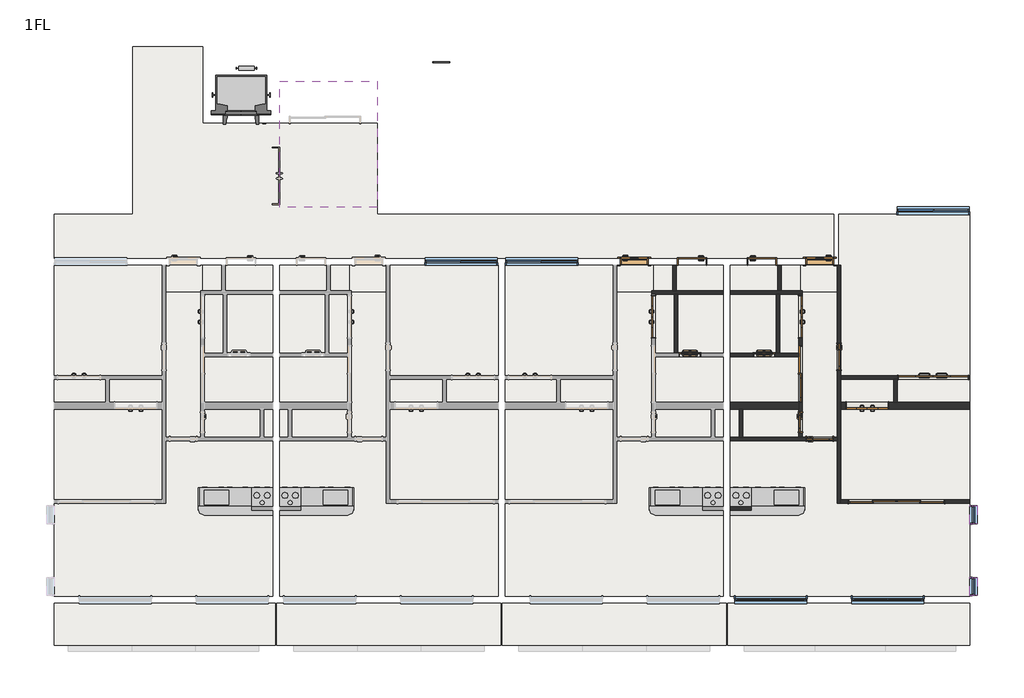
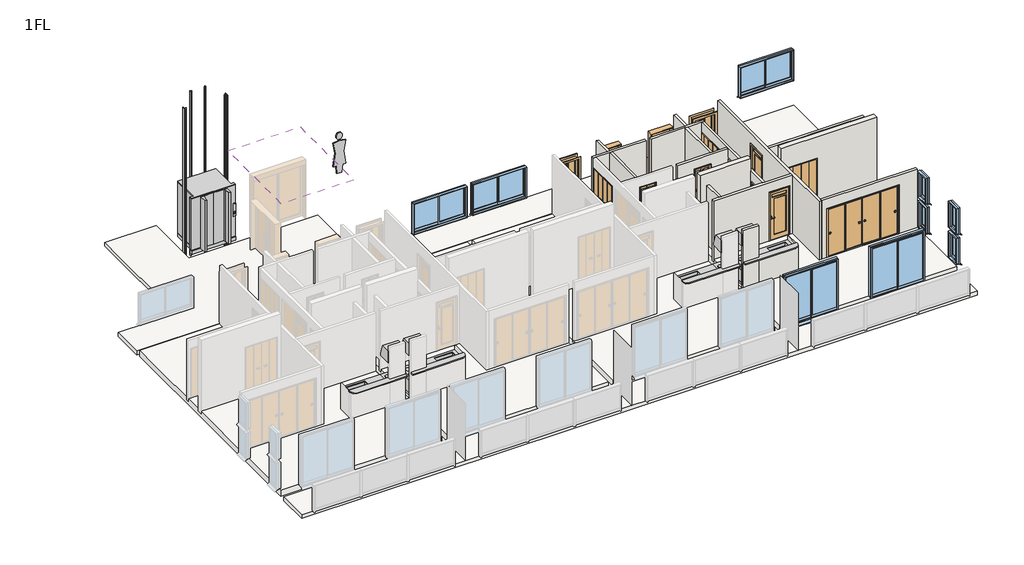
# One storey, part 3 of 3: 19 walls, 15 doors, 14 slabs, 9 windows, 4 flow terminals, 4 furniture elements, 2 proxies, 1 roof.
"""IFC4 building model written with IfcOpenShell, lengths in millimetres."""

from ifc_helpers import new_model, si_unit, frame, origin, place, context, project, spatial, polyline, outline, extrude, faceted_brep, transform, mapped, element, save
from components import entourage_8370d26b, mechanical_equipment_3dd84d69, door_800x2000_a7d1584b, door_800x2000_010bfebf, w1200h2000_6a144d60, w1200h2000_99d19fb3, w1200h2000_ebe1d490, w1600h2000_ca690e72, w2000h2000_5dbb6d6a, w2800h2000_04aa64cd, w600h2000_6a266bef, w600h2000_94bb9c3c, w600h2000_8ea70a65, w800h2000_1d97c4d4, w800h2000_13e9f519, w800h2000_ccb03061, w800h2000_0ab7d42c, flow_terminal_5276808d, flow_terminal_b13850ba, furniture_3a0496f9, furniture_dadabe7c, window_2000x1200_fc91d1cf, window_2000x2000_f1ff98da, window_450x1000_1cddc73c

model = new_model("IFC4")

# Units and contexts
model_context = context("Model", 3, world=origin())
ifc_project = project(units=[si_unit("LENGTHUNIT", "METRE", prefix="MILLI")], contexts=[model_context])

# Site, building, storey
site = spatial("IfcSite", under=ifc_project)
building = spatial("IfcBuilding", under=site)
storey = spatial("IfcBuildingStorey", under=building, Name="1FL", Elevation=1000.0)

# Proxies
placement = place(None, origin())
entourage_shape = entourage_8370d26b(model_context)
element("IfcBuildingElementProxy", 1, Name="M_RPC 女性 : Cynthia", ObjectType="M_RPC 女性 : Cynthia", at=placement, inside=storey, context=model_context, shape_type="MappedRepresentation", body=[
    mapped(entourage_shape, transform((0.0, 0.0, 1000.0), x_axis=(1.0, 0.0, 0.0), y_axis=(0.0, 1.0, 0.0), z_axis=(0.0, 0.0, 1.0))),
])
mechanical_equipment_shape = mechanical_equipment_3dd84d69(model_context)
element("IfcBuildingElementProxy", 2, Name="エレベーター一般1 : 6人乗", ObjectType="エレベーター一般1 : 6人乗", at=placement, inside=storey, context=model_context, shape_type="MappedRepresentation", body=[
    mapped(mechanical_equipment_shape, transform((-5728.7187246, -1650.1171638, 1000.0), x_axis=(1.0, 0.0, 0.0), y_axis=(0.0, 1.0, 0.0), z_axis=(0.0, 0.0, 1.0))),
])

# Doors
door_800x2000_shape = door_800x2000_a7d1584b(model_context)
element("IfcDoor", 3, ObjectType="片開き3 : 800x2000", at=placement, inside=storey, context=model_context, shape_type="MappedRepresentation", body=[
    mapped(door_800x2000_shape, transform((5521.2812754, -5700.1171638, 1000.0), x_axis=(1.0, 0.0, 0.0), y_axis=(0.0, 1.0, 0.0), z_axis=(0.0, 0.0, 1.0))),
])
door_800x2000_2_shape = door_800x2000_010bfebf(model_context)
element("IfcDoor", 4, ObjectType="片開き3 : 800x2000", at=placement, inside=storey, context=model_context, shape_type="MappedRepresentation", body=[
    mapped(door_800x2000_2_shape, transform((10821.2812754, -5700.1171638, 1000.0), x_axis=(-1.0, 0.0, 0.0), y_axis=(0.0, -1.0, 0.0), z_axis=(0.0, 0.0, 1.0))),
])
w1200h2000_shape = w1200h2000_6a144d60(model_context)
element("IfcDoor", 5, ObjectType="木製折戸 : w1200h2000", at=placement, inside=storey, context=model_context, shape_type="MappedRepresentation", body=[
    mapped(w1200h2000_shape, transform((6071.2812754, -7280.1171638, 1100.0), x_axis=(0.0, 1.0, 0.0), y_axis=(-1.0, 0.0, 0.0), z_axis=(0.0, 0.0, 1.0))),
])
w1200h2000_2_shape = w1200h2000_99d19fb3(model_context)
element("IfcDoor", 6, ObjectType="木製折戸 : w1200h2000", at=placement, inside=storey, context=model_context, shape_type="MappedRepresentation", body=[
    mapped(w1200h2000_2_shape, transform((10271.2812754, -7280.1171638, 1100.0), x_axis=(0.0, 1.0, 0.0), y_axis=(-1.0, 0.0, 0.0), z_axis=(0.0, 0.0, 1.0))),
])
w1200h2000_3_shape = w1200h2000_ebe1d490(model_context)
element("IfcDoor", 7, ObjectType="木製折戸 : w1200h2000", at=placement, inside=storey, context=model_context, shape_type="MappedRepresentation", body=[
    mapped(w1200h2000_3_shape, transform((12183.7812754, -9820.1171638, 1100.0), x_axis=(1.0, 0.0, 0.0), y_axis=(0.0, 1.0, 0.0), z_axis=(0.0, 0.0, 1.0))),
])
w1600h2000_shape = w1600h2000_ca690e72(model_context)
element("IfcDoor", 8, ObjectType="片引戸CL2017 : w1600h2000", at=placement, inside=storey, context=model_context, shape_type="MappedRepresentation", body=[
    mapped(w1600h2000_shape, transform((10271.2812754, -8920.1171638, 1100.0), x_axis=(0.0, -1.0, 0.0), y_axis=(1.0, 0.0, 0.0), z_axis=(0.0, 0.0, 1.0))),
])
w2000h2000_shape = w2000h2000_5dbb6d6a(model_context)
element("IfcDoor", 9, ObjectType="木製折戸 : w2000h2000", at=placement, inside=storey, context=model_context, shape_type="MappedRepresentation", body=[
    mapped(w2000h2000_shape, transform((14066.2812754, -9020.1171638, 1100.0), x_axis=(-1.0, 0.0, 0.0), y_axis=(0.0, -1.0, 0.0), z_axis=(0.0, 0.0, 1.0))),
])
w2800h2000_shape = w2800h2000_04aa64cd(model_context)
element("IfcDoor", 10, ObjectType="引違い 4 枚 2 溝_襖 : w2800h2000", at=placement, inside=storey, context=model_context, shape_type="MappedRepresentation", body=[
    mapped(w2800h2000_shape, transform((13026.8167793, -12570.1171638, 1100.0), x_axis=(1.0, 0.0, 0.0), y_axis=(0.0, 1.0, 0.0), z_axis=(0.0, 0.0, 1.0))),
])
w600h2000_shape = w600h2000_6a266bef(model_context)
element("IfcDoor", 11, ObjectType="浴室折戸 : w600h2000", at=placement, inside=storey, context=model_context, shape_type="MappedRepresentation", body=[
    mapped(w600h2000_shape, transform((7111.2812754, -8370.1171638, 1100.0), x_axis=(1.0, 0.0, 0.0), y_axis=(0.0, 1.0, 0.0), z_axis=(0.0, 0.0, 1.0))),
])
w600h2000_2_shape = w600h2000_94bb9c3c(model_context)
element("IfcDoor", 12, ObjectType="浴室折戸 : w600h2000", at=placement, inside=storey, context=model_context, shape_type="MappedRepresentation", body=[
    mapped(w600h2000_2_shape, transform((9231.2812754, -8370.1171638, 1100.0), x_axis=(-1.0, 0.0, 0.0), y_axis=(0.0, -1.0, 0.0), z_axis=(0.0, 0.0, 1.0))),
])
w600h2000_3_shape = w600h2000_8ea70a65(model_context)
element("IfcDoor", 13, ObjectType="片開戸CL2058 : w600h2000", at=placement, inside=storey, context=model_context, shape_type="MappedRepresentation", body=[
    mapped(w600h2000_3_shape, transform((10271.2812754, -10295.1171638, 1100.0), x_axis=(0.0, -1.0, 0.0), y_axis=(1.0, 0.0, 0.0), z_axis=(0.0, 0.0, 1.0))),
])
w800h2000_shape = w800h2000_1d97c4d4(model_context)
element("IfcDoor", 14, ObjectType="片開 : w800h2000", at=placement, inside=storey, context=model_context, shape_type="MappedRepresentation", body=[
    mapped(w800h2000_shape, transform((7171.2812754, -5700.1171638, 1000.0), x_axis=(-1.0, 0.0, 0.0), y_axis=(0.0, -1.0, 0.0), z_axis=(0.0, 0.0, 1.0))),
])
w800h2000_2_shape = w800h2000_13e9f519(model_context)
element("IfcDoor", 15, ObjectType="片開戸CL2058 : w800h2000", at=placement, inside=storey, context=model_context, shape_type="MappedRepresentation", body=[
    mapped(w800h2000_2_shape, transform((10821.2812754, -10770.1171638, 1100.0), x_axis=(1.0, 0.0, 0.0), y_axis=(0.0, 1.0, 0.0), z_axis=(0.0, 0.0, 1.0))),
])
w800h2000_3_shape = w800h2000_ccb03061(model_context)
element("IfcDoor", 16, ObjectType="片開戸CL2058 : w800h2000", at=placement, inside=storey, context=model_context, shape_type="MappedRepresentation", body=[
    mapped(w800h2000_3_shape, transform((11371.2812754, -8420.1171638, 1100.0), x_axis=(0.0, -1.0, 0.0), y_axis=(1.0, 0.0, 0.0), z_axis=(0.0, 0.0, 1.0))),
])
w800h2000_4_shape = w800h2000_0ab7d42c(model_context)
element("IfcDoor", 17, ObjectType="片開 : w800h2000", at=placement, inside=storey, context=model_context, shape_type="MappedRepresentation", body=[
    mapped(w800h2000_4_shape, transform((9171.2812754, -5700.1171638, 1000.0), x_axis=(1.0, 0.0, 0.0), y_axis=(0.0, 1.0, 0.0), z_axis=(0.0, 0.0, 1.0))),
])

# Flow terminals
flow_terminal_shape = flow_terminal_5276808d(model_context)
element("IfcFlowTerminal", 18, ObjectType="システムキッチンIH : システムキッチンIH", at=placement, inside=storey, context=model_context, shape_type="MappedRepresentation", body=[
    mapped(flow_terminal_shape, transform((-4828.7187246, -12720.1171638, 1200.0), x_axis=(1.0000000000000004, 0.0, 0.0), y_axis=(0.0, 1.0000000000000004, 0.0), z_axis=(0.0, 0.0, 1.0))),
])
element("IfcFlowTerminal", 19, ObjectType="システムキッチンIH : システムキッチンIH", at=placement, inside=storey, context=model_context, shape_type="MappedRepresentation", body=[
    mapped(flow_terminal_shape, transform((8071.2812754, -12720.1171638, 1200.0), x_axis=(1.0, 0.0, 0.0), y_axis=(0.0, 1.0, 0.0), z_axis=(0.0, 0.0, 1.0))),
])
flow_terminal_2_shape = flow_terminal_b13850ba(model_context)
element("IfcFlowTerminal", 20, ObjectType="システムキッチンIH : システムキッチンIH", at=placement, inside=storey, context=model_context, shape_type="MappedRepresentation", body=[
    mapped(flow_terminal_2_shape, transform((-4628.7187246, -12720.1171638, 1200.0), x_axis=(-1.0, 0.0, 0.0), y_axis=(0.0, -1.0, 0.0), z_axis=(0.0, 0.0, 1.0))),
])
element("IfcFlowTerminal", 21, ObjectType="システムキッチンIH : システムキッチンIH", at=placement, inside=storey, context=model_context, shape_type="MappedRepresentation", body=[
    mapped(flow_terminal_2_shape, transform((8271.2812754, -12720.1171638, 1200.0), x_axis=(-1.0, 0.0, 0.0), y_axis=(0.0, -1.0, 0.0), z_axis=(0.0, 0.0, 1.0))),
])

# Furniture
furniture_shape = furniture_3a0496f9(model_context)
element("IfcFurniture", 22, ObjectType="キッチンカウンター : キッチンカウンター", at=placement, inside=storey, context=model_context, shape_type="MappedRepresentation", body=[
    mapped(furniture_shape, transform((-4628.7187246, -12820.1171638, 1100.0), x_axis=(-1.0, 0.0, 0.0), y_axis=(0.0, -1.0, 0.0), z_axis=(0.0, 0.0, 1.0))),
])
element("IfcFurniture", 23, ObjectType="キッチンカウンター : キッチンカウンター", at=placement, inside=storey, context=model_context, shape_type="MappedRepresentation", body=[
    mapped(furniture_shape, transform((8271.2812754, -12820.1171638, 1100.0), x_axis=(-1.0, 0.0, 0.0), y_axis=(0.0, -1.0, 0.0), z_axis=(0.0, 0.0, 1.0))),
])
furniture_2_shape = furniture_dadabe7c(model_context)
element("IfcFurniture", 24, ObjectType="キッチンカウンター : キッチンカウンター", at=placement, inside=storey, context=model_context, shape_type="MappedRepresentation", body=[
    mapped(furniture_2_shape, transform((-4828.7187246, -12820.1171638, 1100.0), x_axis=(1.0, 0.0, 0.0), y_axis=(0.0, 1.0, 0.0), z_axis=(0.0, 0.0, 1.0))),
])
element("IfcFurniture", 25, ObjectType="キッチンカウンター : キッチンカウンター", at=placement, inside=storey, context=model_context, shape_type="MappedRepresentation", body=[
    mapped(furniture_2_shape, transform((8071.2812754, -12820.1171638, 1100.0), x_axis=(1.0, 0.0, 0.0), y_axis=(0.0, 1.0, 0.0), z_axis=(0.0, 0.0, 1.0))),
])

# Roof
element("IfcRoof", 26, ObjectType="RC150", at=placement, inside=storey, context=model_context, shape_type="SweptSolid", body=[
    extrude(outline(polyline([(-1828.7187246, -4150.1171638), (-4628.7187246, -4150.1171638), (-4628.7187246, -550.1171638), (-1828.7187246, -550.1171638), (-1828.7187246, -4150.1171638)])), frame((0.0, 0.0, 3850.0), z_axis=(0.0, 0.0, 1.0), x_axis=(1.0, 0.0, 0.0)), (0.0, 0.0, 1.0), 150.0),
])

# Slabs
element("IfcSlab", 27, ObjectType="RC150＋100", at=placement, inside=storey, context=model_context, shape_type="SweptSolid", body=[
    extrude(outline(polyline([(-4828.7187246, -15270.1171638), (-11078.7187246, -15270.1171638), (-11078.7187246, -5800.1171638), (-7928.7187246, -5800.1171638), (-7928.7187246, -6580.1171638), (-6828.7187246, -6580.1171638), (-6828.7187246, -5800.1171638), (-4828.7187246, -5800.1171638), (-4828.7187246, -6580.1171638), (-6188.7187246, -6580.1171638), (-6188.7187246, -8370.1171638), (-4828.7187246, -8370.1171638), (-4828.7187246, -15270.1171638)])), frame((0.0, 0.0, 850.0), z_axis=(0.0, 0.0, 1.0), x_axis=(1.0, 0.0, 0.0)), (0.0, 0.0, 1.0), 250.0),
])
element("IfcSlab", 28, ObjectType="RC150＋100", at=placement, inside=storey, context=model_context, shape_type="SweptSolid", body=[
    extrude(outline(polyline([(-4628.7187246, -15270.1171638), (-4628.7187246, -8370.1171638), (-3268.7187246, -8370.1171638), (-3268.7187246, -6580.1171638), (-4628.7187246, -6580.1171638), (-4628.7187246, -5800.1171638), (-2628.7187246, -5800.1171638), (-2628.7187246, -6580.1171638), (-1528.7187246, -6580.1171638), (-1528.7187246, -5800.1171638), (1621.2812754, -5800.1171638), (1621.2812754, -15270.1171638), (-4628.7187246, -15270.1171638)])), frame((0.0, 0.0, 850.0), z_axis=(0.0, 0.0, 1.0), x_axis=(1.0, 0.0, 0.0)), (0.0, 0.0, 1.0), 250.0),
])
element("IfcSlab", 29, ObjectType="RC150＋100", at=placement, inside=storey, context=model_context, shape_type="SweptSolid", body=[
    extrude(outline(polyline([(8071.2812754, -15270.1171638), (1821.2812754, -15270.1171638), (1821.2812754, -5800.1171638), (4971.2812754, -5800.1171638), (4971.2812754, -6580.1171638), (6071.2812754, -6580.1171638), (6071.2812754, -5800.1171638), (8071.2812754, -5800.1171638), (8071.2812754, -6580.1171638), (6711.2812754, -6580.1171638), (6711.2812754, -8370.1171638), (8071.2812754, -8370.1171638), (8071.2812754, -15270.1171638)])), frame((0.0, 0.0, 850.0), z_axis=(0.0, 0.0, 1.0), x_axis=(1.0, 0.0, 0.0)), (0.0, 0.0, 1.0), 250.0),
])
element("IfcSlab", 30, ObjectType="RC150＋100", at=placement, inside=storey, context=model_context, shape_type="SweptSolid", body=[
    extrude(outline(polyline([(8271.2812754, -15270.1171638), (8271.2812754, -8370.1171638), (9631.2812754, -8370.1171638), (9631.2812754, -6580.1171638), (8271.2812754, -6580.1171638), (8271.2812754, -5800.1171638), (10271.2812754, -5800.1171638), (10271.2812754, -6580.1171638), (11371.2812754, -6580.1171638), (11371.2812754, -4350.1171638), (15121.2812754, -4350.1171638), (15121.2812754, -15270.1171638), (8271.2812754, -15270.1171638)])), frame((0.0, 0.0, 850.0), z_axis=(0.0, 0.0, 1.0), x_axis=(1.0, 0.0, 0.0)), (0.0, 0.0, 1.0), 250.0),
])
element("IfcSlab", 31, ObjectType="RC150", at=placement, inside=storey, context=model_context, shape_type="SweptSolid", body=[
    extrude(outline(polyline([(-4828.7187246, -8370.1171638), (-6188.7187246, -8370.1171638), (-6188.7187246, -6580.1171638), (-4828.7187246, -6580.1171638), (-4828.7187246, -8370.1171638)])), frame((0.0, 0.0, 850.0), z_axis=(0.0, 0.0, 1.0), x_axis=(1.0, 0.0, 0.0)), (0.0, 0.0, 1.0), 150.0),
])
element("IfcSlab", 32, ObjectType="RC150", at=placement, inside=storey, context=model_context, shape_type="SweptSolid", body=[
    extrude(outline(polyline([(-6828.7187246, -6580.1171638), (-7928.7187246, -6580.1171638), (-7928.7187246, -5800.1171638), (-6828.7187246, -5800.1171638), (-6828.7187246, -6580.1171638)])), frame((0.0, 0.0, 800.0), z_axis=(0.0, 0.0, 1.0), x_axis=(1.0, 0.0, 0.0)), (0.0, 0.0, 1.0), 150.0),
])
element("IfcSlab", 33, ObjectType="RC150", at=placement, inside=storey, context=model_context, shape_type="SweptSolid", body=[
    extrude(outline(polyline([(-4628.7187246, -8370.1171638), (-4628.7187246, -6580.1171638), (-3268.7187246, -6580.1171638), (-3268.7187246, -8370.1171638), (-4628.7187246, -8370.1171638)])), frame((0.0, 0.0, 850.0), z_axis=(0.0, 0.0, 1.0), x_axis=(1.0, 0.0, 0.0)), (0.0, 0.0, 1.0), 150.0),
])
element("IfcSlab", 34, ObjectType="RC150", at=placement, inside=storey, context=model_context, shape_type="SweptSolid", body=[
    extrude(outline(polyline([(-2628.7187246, -6580.1171638), (-2628.7187246, -5800.1171638), (-1528.7187246, -5800.1171638), (-1528.7187246, -6580.1171638), (-2628.7187246, -6580.1171638)])), frame((0.0, 0.0, 800.0), z_axis=(0.0, 0.0, 1.0), x_axis=(1.0, 0.0, 0.0)), (0.0, 0.0, 1.0), 150.0),
])
element("IfcSlab", 35, ObjectType="RC150", at=placement, inside=storey, context=model_context, shape_type="SweptSolid", body=[
    extrude(outline(polyline([(8071.2812754, -8370.1171638), (6711.2812754, -8370.1171638), (6711.2812754, -6580.1171638), (8071.2812754, -6580.1171638), (8071.2812754, -8370.1171638)])), frame((0.0, 0.0, 850.0), z_axis=(0.0, 0.0, 1.0), x_axis=(1.0, 0.0, 0.0)), (0.0, 0.0, 1.0), 150.0),
])
element("IfcSlab", 36, ObjectType="RC150", at=placement, inside=storey, context=model_context, shape_type="SweptSolid", body=[
    extrude(outline(polyline([(6071.2812754, -6580.1171638), (4971.2812754, -6580.1171638), (4971.2812754, -5800.1171638), (6071.2812754, -5800.1171638), (6071.2812754, -6580.1171638)])), frame((0.0, 0.0, 800.0), z_axis=(0.0, 0.0, 1.0), x_axis=(1.0, 0.0, 0.0)), (0.0, 0.0, 1.0), 150.0),
])
element("IfcSlab", 37, ObjectType="RC150", at=placement, inside=storey, context=model_context, shape_type="SweptSolid", body=[
    extrude(outline(polyline([(8271.2812754, -8370.1171638), (8271.2812754, -6580.1171638), (9631.2812754, -6580.1171638), (9631.2812754, -8370.1171638), (8271.2812754, -8370.1171638)])), frame((0.0, 0.0, 850.0), z_axis=(0.0, 0.0, 1.0), x_axis=(1.0, 0.0, 0.0)), (0.0, 0.0, 1.0), 150.0),
])
element("IfcSlab", 38, ObjectType="RC150", at=placement, inside=storey, context=model_context, shape_type="SweptSolid", body=[
    extrude(outline(polyline([(10271.2812754, -6580.1171638), (10271.2812754, -5800.1171638), (11371.2812754, -5800.1171638), (11371.2812754, -6580.1171638), (10271.2812754, -6580.1171638)])), frame((0.0, 0.0, 800.0), z_axis=(0.0, 0.0, 1.0), x_axis=(1.0, 0.0, 0.0)), (0.0, 0.0, 1.0), 150.0),
])
element("IfcSlab", 39, ObjectType="RC150", at=placement, inside=storey, context=model_context, shape_type="SweptSolid", body=[
    extrude(outline(polyline([(-8828.7187246, -4350.1171638), (-8828.7187246, 449.8828362), (-6828.7187246, 449.8828362), (-6828.7187246, -1750.1171638), (-1828.7187246, -1750.1171638), (-1828.7187246, -4350.1171638), (11221.2812754, -4350.1171638), (11221.2812754, -5600.1171638), (-11078.7187246, -5600.1171638), (-11078.7187246, -4350.1171638), (-8828.7187246, -4350.1171638)])), frame((0.0, 0.0, 800.0), z_axis=(0.0, 0.0, 1.0), x_axis=(1.0, 0.0, 0.0)), (0.0, 0.0, 1.0), 150.0),
])
element("IfcSlab", 40, ObjectType="RC150", at=placement, inside=storey, context=model_context, shape_type="SweptSolid", body=[
    extrude(outline(polyline([(15121.2812754, -15470.1171638), (15121.2812754, -16670.1171638), (-11078.7187246, -16670.1171638), (-11078.7187246, -15470.1171638), (15121.2812754, -15470.1171638)])), frame((0.0, 0.0, 800.0), z_axis=(0.0, 0.0, 1.0), x_axis=(1.0, 0.0, 0.0)), (0.0, 0.0, 1.0), 150.0),
])

# Walls
element("IfcWall", 41, ObjectType="(R)RC200", at=placement, inside=storey, context=model_context, shape_type="Brep", body=[
    faceted_brep([(15121.2812754, -9720.1171638, 1000.0), (13046.2812754, -9720.1171638, 1000.0), (12946.2812754, -9720.1171638, 1000.0), (11421.2812754, -9720.1171638, 1000.0), (11421.2812754, -9720.1171638, 4000.0), (15121.2812754, -9720.1171638, 4000.0), (12803.7812754, -9720.1171638, 3120.0), (11563.7812754, -9720.1171638, 3120.0), (11563.7812754, -9720.1171638, 1100.0), (12803.7812754, -9720.1171638, 1100.0), (15121.2812754, -9920.1171638, 1000.0), (15121.2812754, -9920.1171638, 4000.0), (11421.2812754, -9920.1171638, 4000.0), (11421.2812754, -9920.1171638, 1000.0), (12803.7812754, -9920.1171638, 3120.0), (12803.7812754, -9920.1171638, 1100.0), (11563.7812754, -9920.1171638, 1100.0), (11563.7812754, -9920.1171638, 3120.0)], [[[0, 1, 2, 3, 4, 5], [6, 7, 8, 9]], [[10, 11, 12, 13], [14, 15, 16, 17]], [[3, 2, 1, 0, 10, 13]], [[5, 4, 12, 11]], [[4, 3, 13, 12]], [[15, 14, 6, 9]], [[16, 15, 9, 8]], [[17, 16, 8, 7]], [[14, 17, 7, 6]], [[0, 5, 11, 10]]]),
])
element("IfcWall", 42, ObjectType="(R)RC200", at=placement, inside=storey, context=model_context, shape_type="Brep", body=[
    faceted_brep([(10221.2812754, -9720.1171638, 1000.0), (8271.2812754, -9720.1171638, 1000.0), (8271.2812754, -9720.1171638, 4000.0), (10221.2812754, -9720.1171638, 4000.0), (10221.2812754, -9920.1171638, 1000.0), (10221.2812754, -9920.1171638, 4000.0), (8271.2812754, -9920.1171638, 4000.0), (8271.2812754, -9920.1171638, 1000.0), (8521.2812754, -9920.1171638, 1000.0), (8621.2812754, -9920.1171638, 1000.0)], [[[0, 1, 2, 3]], [[4, 5, 6, 7, 8, 9]], [[1, 0, 4, 9, 8, 7]], [[3, 2, 6, 5]], [[0, 3, 5, 4]], [[2, 1, 7, 6]]]),
])
element("IfcWall", 43, ObjectType="(F)30", at=placement, inside=storey, context=model_context, shape_type="SweptSolid", body=[
    extrude(outline(polyline([(10363.6749911, -12720.1171638), (10363.6749911, -12165.1171638), (10393.6749911, -12165.1171638), (10393.6749911, -12720.1171638), (10363.6749911, -12720.1171638)])), frame((0.0, 0.0, 1100.0), z_axis=(0.0, 0.0, 1.0), x_axis=(1.0, 0.0, 0.0)), (0.0, 0.0, 1.0), 1060.0),
])
element("IfcWall", 44, ObjectType="(L1)LGS100", at=placement, inside=storey, context=model_context, shape_type="Brep", body=[
    faceted_brep([(6021.2812754, -6630.1171638, 1000.0), (6121.2812754, -6630.1171638, 1000.0), (6661.2812754, -6630.1171638, 1000.0), (6761.2812754, -6630.1171638, 1000.0), (8071.2812754, -6630.1171638, 1000.0), (8071.2812754, -6630.1171638, 3500.0), (6761.2812754, -6630.1171638, 3500.0), (6661.2812754, -6630.1171638, 3500.0), (6121.2812754, -6630.1171638, 3500.0), (6021.2812754, -6630.1171638, 3500.0), (6021.2812754, -6530.1171638, 1000.0), (6021.2812754, -6530.1171638, 3500.0), (6621.2812754, -6530.1171638, 3500.0), (6721.2812754, -6530.1171638, 3500.0), (8071.2812754, -6530.1171638, 3500.0), (8071.2812754, -6530.1171638, 1000.0), (6721.2812754, -6530.1171638, 1000.0), (6621.2812754, -6530.1171638, 1000.0)], [[[0, 1, 2, 3, 4, 5, 6, 7, 8, 9]], [[10, 11, 12, 13, 14, 15, 16, 17]], [[4, 3, 2, 1, 0, 10, 17, 16, 15]], [[9, 8, 7, 6, 5, 14, 13, 12, 11]], [[0, 9, 11, 10]], [[5, 4, 15, 14]]]),
])
element("IfcWall", 45, ObjectType="(L1)LGS100", at=placement, inside=storey, context=model_context, shape_type="SweptSolid", body=[
    extrude(outline(polyline([(6721.2812754, -5800.1171638), (6721.2812754, -6530.1171638), (6621.2812754, -6530.1171638), (6621.2812754, -5800.1171638), (6721.2812754, -5800.1171638)])), frame((0.0, 0.0, 1000.0), z_axis=(0.0, 0.0, 1.0), x_axis=(1.0, 0.0, 0.0)), (0.0, 0.0, 1.0), 2500.0),
])
element("IfcWall", 46, ObjectType="(L1)LGS100", at=placement, inside=storey, context=model_context, shape_type="SweptSolid", body=[
    extrude(outline(polyline([(6761.2812754, -6630.1171638), (6761.2812754, -8320.1171638), (6661.2812754, -8320.1171638), (6661.2812754, -6630.1171638), (6761.2812754, -6630.1171638)])), frame((0.0, 0.0, 1000.0), z_axis=(0.0, 0.0, 1.0), x_axis=(1.0, 0.0, 0.0)), (0.0, 0.0, 1.0), 2500.0),
])
element("IfcWall", 47, ObjectType="(L1)LGS100", at=placement, inside=storey, context=model_context, shape_type="Brep", body=[
    faceted_brep([(15121.2812754, -8970.1171638, 1000.0), (11421.2812754, -8970.1171638, 1000.0), (11421.2812754, -8970.1171638, 3500.0), (15121.2812754, -8970.1171638, 3500.0), (13046.2812754, -8970.1171638, 3120.0), (13046.2812754, -8970.1171638, 1100.0), (15086.2812754, -8970.1171638, 1100.0), (15086.2812754, -8970.1171638, 3120.0), (11421.2812754, -9070.1171638, 1000.0), (12946.2812754, -9070.1171638, 1000.0), (13046.2812754, -9070.1171638, 1000.0), (15121.2812754, -9070.1171638, 1000.0), (15121.2812754, -9070.1171638, 3500.0), (13046.2812754, -9070.1171638, 3500.0), (12946.2812754, -9070.1171638, 3500.0), (11421.2812754, -9070.1171638, 3500.0), (13046.2812754, -9070.1171638, 1100.0), (13046.2812754, -9070.1171638, 3120.0), (15086.2812754, -9070.1171638, 3120.0), (15086.2812754, -9070.1171638, 1100.0)], [[[0, 1, 2, 3], [4, 5, 6, 7]], [[8, 9, 10, 11, 12, 13, 14, 15], [16, 17, 18, 19]], [[1, 0, 11, 10, 9, 8]], [[3, 2, 15, 14, 13, 12]], [[2, 1, 8, 15]], [[4, 17, 16, 5]], [[5, 16, 19, 6]], [[17, 4, 7, 18]], [[18, 7, 6, 19]], [[0, 3, 12, 11]]]),
])
element("IfcWall", 48, ObjectType="(L1)LGS100", at=placement, inside=storey, context=model_context, shape_type="SweptSolid", body=[
    extrude(outline(polyline([(13046.2812754, -9070.1171638), (13046.2812754, -9720.1171638), (12946.2812754, -9720.1171638), (12946.2812754, -9070.1171638), (13046.2812754, -9070.1171638)])), frame((0.0, 0.0, 1000.0), z_axis=(0.0, 0.0, 1.0), x_axis=(1.0, 0.0, 0.0)), (0.0, 0.0, 1.0), 2500.0),
])
element("IfcWall", 49, ObjectType="(L1)LGS100", at=placement, inside=storey, context=model_context, shape_type="Brep", body=[
    faceted_brep([(11421.2812754, -12620.1171638, 1000.0), (11421.2812754, -12520.1171638, 1000.0), (11421.2812754, -9920.1171638, 1000.0), (11421.2812754, -9720.1171638, 1000.0), (11421.2812754, -9070.1171638, 1000.0), (11421.2812754, -8970.1171638, 1000.0), (11421.2812754, -5800.1171638, 1000.0), (11421.2812754, -5800.1171638, 3500.0), (11421.2812754, -8970.1171638, 3500.0), (11421.2812754, -9070.1171638, 3500.0), (11421.2812754, -12520.1171638, 3500.0), (11421.2812754, -12620.1171638, 3500.0), (11421.2812754, -8820.1171638, 1100.0), (11421.2812754, -8820.1171638, 3100.0), (11421.2812754, -8020.1171638, 3100.0), (11421.2812754, -8020.1171638, 1100.0), (11321.2812754, -12620.1171638, 1000.0), (11321.2812754, -12620.1171638, 3500.0), (11321.2812754, -10820.1171638, 3500.0), (11321.2812754, -10720.1171638, 3500.0), (11321.2812754, -5800.1171638, 3500.0), (11321.2812754, -5800.1171638, 1000.0), (11321.2812754, -10720.1171638, 1000.0), (11321.2812754, -10820.1171638, 1000.0), (11321.2812754, -8820.1171638, 1100.0), (11321.2812754, -8020.1171638, 1100.0), (11321.2812754, -8020.1171638, 3100.0), (11321.2812754, -8820.1171638, 3100.0)], [[[0, 1, 2, 3, 4, 5, 6, 7, 8, 9, 10, 11], [12, 13, 14, 15]], [[16, 17, 18, 19, 20, 21, 22, 23], [24, 25, 26, 27]], [[6, 5, 4, 3, 2, 1, 0, 16, 23, 22, 21]], [[11, 10, 9, 8, 7, 20, 19, 18, 17]], [[0, 11, 17, 16]], [[13, 12, 24, 27]], [[14, 13, 27, 26]], [[15, 14, 26, 25]], [[12, 15, 25, 24]], [[7, 6, 21, 20]]]),
])
element("IfcWall", 50, ObjectType="(L1)LGS100", at=placement, inside=storey, context=model_context, shape_type="Brep", body=[
    faceted_brep([(10221.2812754, -8320.1171638, 1000.0), (9681.2812754, -8320.1171638, 1000.0), (9581.2812754, -8320.1171638, 1000.0), (8271.2812754, -8320.1171638, 1000.0), (8271.2812754, -8320.1171638, 3500.0), (9581.2812754, -8320.1171638, 3500.0), (9681.2812754, -8320.1171638, 3500.0), (10221.2812754, -8320.1171638, 3500.0), (8911.2812754, -8320.1171638, 3120.0), (8911.2812754, -8320.1171638, 1100.0), (9551.2812754, -8320.1171638, 1100.0), (9551.2812754, -8320.1171638, 3120.0), (10221.2812754, -8420.1171638, 1000.0), (10221.2812754, -8420.1171638, 3500.0), (8271.2812754, -8420.1171638, 3500.0), (8271.2812754, -8420.1171638, 1000.0), (8911.2812754, -8420.1171638, 3120.0), (9551.2812754, -8420.1171638, 3120.0), (9551.2812754, -8420.1171638, 1100.0), (8911.2812754, -8420.1171638, 1100.0)], [[[0, 1, 2, 3, 4, 5, 6, 7], [8, 9, 10, 11]], [[12, 13, 14, 15], [16, 17, 18, 19]], [[3, 2, 1, 0, 12, 15]], [[7, 6, 5, 4, 14, 13]], [[0, 7, 13, 12]], [[9, 8, 16, 19]], [[10, 9, 19, 18]], [[11, 10, 18, 17]], [[8, 11, 17, 16]], [[4, 3, 15, 14]]]),
])
element("IfcWall", 51, ObjectType="(L1)LGS100", at=placement, inside=storey, context=model_context, shape_type="Brep", body=[
    faceted_brep([(10321.2812754, -10720.1171638, 1000.0), (10321.2812754, -6630.1171638, 1000.0), (10321.2812754, -6630.1171638, 3500.0), (10321.2812754, -10720.1171638, 3500.0), (10321.2812754, -10595.1171638, 1100.0), (10321.2812754, -10595.1171638, 3100.0), (10321.2812754, -9995.1171638, 3100.0), (10321.2812754, -9995.1171638, 1100.0), (10321.2812754, -6660.1171638, 1100.0), (10321.2812754, -7900.1171638, 1100.0), (10321.2812754, -7900.1171638, 3120.0), (10321.2812754, -6660.1171638, 3120.0), (10321.2812754, -9745.1171638, 1100.0), (10321.2812754, -9745.1171638, 3140.0), (10321.2812754, -8095.1171638, 3140.0), (10321.2812754, -8095.1171638, 1100.0), (10221.2812754, -6630.1171638, 1000.0), (10221.2812754, -8320.1171638, 1000.0), (10221.2812754, -8420.1171638, 1000.0), (10221.2812754, -9720.1171638, 1000.0), (10221.2812754, -9920.1171638, 1000.0), (10221.2812754, -10720.1171638, 1000.0), (10221.2812754, -10720.1171638, 3500.0), (10221.2812754, -8420.1171638, 3500.0), (10221.2812754, -8320.1171638, 3500.0), (10221.2812754, -6630.1171638, 3500.0), (10221.2812754, -10595.1171638, 1100.0), (10221.2812754, -9995.1171638, 1100.0), (10221.2812754, -9995.1171638, 3100.0), (10221.2812754, -10595.1171638, 3100.0), (10221.2812754, -7900.1171638, 1100.0), (10221.2812754, -6660.1171638, 1100.0), (10221.2812754, -6660.1171638, 3120.0), (10221.2812754, -7900.1171638, 3120.0), (10221.2812754, -9745.1171638, 1100.0), (10221.2812754, -8095.1171638, 1100.0), (10221.2812754, -8095.1171638, 3140.0), (10221.2812754, -9745.1171638, 3140.0)], [[[0, 1, 2, 3], [4, 5, 6, 7], [8, 9, 10, 11], [12, 13, 14, 15]], [[16, 17, 18, 19, 20, 21, 22, 23, 24, 25], [26, 27, 28, 29], [30, 31, 32, 33], [34, 35, 36, 37]], [[1, 0, 21, 20, 19, 18, 17, 16]], [[3, 2, 25, 24, 23, 22]], [[0, 3, 22, 21]], [[2, 1, 16, 25]], [[5, 4, 26, 29]], [[6, 5, 29, 28]], [[7, 6, 28, 27]], [[4, 7, 27, 26]], [[8, 31, 30, 9]], [[9, 30, 33, 10]], [[10, 33, 32, 11]], [[13, 12, 34, 37]], [[14, 13, 37, 36]], [[15, 14, 36, 35]], [[12, 15, 35, 34]], [[31, 8, 11, 32]]]),
])
element("IfcWall", 52, ObjectType="(L1)LGS100", at=placement, inside=storey, context=model_context, shape_type="Brep", body=[
    faceted_brep([(10321.2812754, -6530.1171638, 1000.0), (9721.2812754, -6530.1171638, 1000.0), (9621.2812754, -6530.1171638, 1000.0), (8271.2812754, -6530.1171638, 1000.0), (8271.2812754, -6530.1171638, 3500.0), (9621.2812754, -6530.1171638, 3500.0), (9721.2812754, -6530.1171638, 3500.0), (10321.2812754, -6530.1171638, 3500.0), (10321.2812754, -6630.1171638, 1000.0), (10321.2812754, -6630.1171638, 3500.0), (10221.2812754, -6630.1171638, 3500.0), (9681.2812754, -6630.1171638, 3500.0), (9581.2812754, -6630.1171638, 3500.0), (8271.2812754, -6630.1171638, 3500.0), (8271.2812754, -6630.1171638, 1000.0), (9581.2812754, -6630.1171638, 1000.0), (9681.2812754, -6630.1171638, 1000.0), (10221.2812754, -6630.1171638, 1000.0)], [[[0, 1, 2, 3, 4, 5, 6, 7]], [[8, 9, 10, 11, 12, 13, 14, 15, 16, 17]], [[3, 2, 1, 0, 8, 17, 16, 15, 14]], [[7, 6, 5, 4, 13, 12, 11, 10, 9]], [[0, 7, 9, 8]], [[4, 3, 14, 13]]]),
])
element("IfcWall", 53, ObjectType="(L1)LGS100", at=placement, inside=storey, context=model_context, shape_type="SweptSolid", body=[
    extrude(outline(polyline([(9721.2812754, -5800.1171638), (9721.2812754, -6530.1171638), (9621.2812754, -6530.1171638), (9621.2812754, -5800.1171638), (9721.2812754, -5800.1171638)])), frame((0.0, 0.0, 1000.0), z_axis=(0.0, 0.0, 1.0), x_axis=(1.0, 0.0, 0.0)), (0.0, 0.0, 1.0), 2500.0),
])
element("IfcWall", 54, ObjectType="(L1)LGS100", at=placement, inside=storey, context=model_context, shape_type="SweptSolid", body=[
    extrude(outline(polyline([(9681.2812754, -6630.1171638), (9681.2812754, -8320.1171638), (9581.2812754, -8320.1171638), (9581.2812754, -6630.1171638), (9681.2812754, -6630.1171638)])), frame((0.0, 0.0, 1000.0), z_axis=(0.0, 0.0, 1.0), x_axis=(1.0, 0.0, 0.0)), (0.0, 0.0, 1.0), 2500.0),
])
element("IfcWall", 55, ObjectType="(L1)LGS100", at=placement, inside=storey, context=model_context, shape_type="SweptSolid", body=[
    extrude(outline(polyline([(8621.2812754, -9920.1171638), (8621.2812754, -10720.1171638), (8521.2812754, -10720.1171638), (8521.2812754, -9920.1171638), (8621.2812754, -9920.1171638)])), frame((0.0, 0.0, 1000.0), z_axis=(0.0, 0.0, 1.0), x_axis=(1.0, 0.0, 0.0)), (0.0, 0.0, 1.0), 2500.0),
])
element("IfcWall", 56, ObjectType="(L1)LGS100", at=placement, inside=storey, context=model_context, shape_type="Brep", body=[
    faceted_brep([(11321.2812754, -10720.1171638, 1000.0), (10321.2812754, -10720.1171638, 1000.0), (10221.2812754, -10720.1171638, 1000.0), (8621.2812754, -10720.1171638, 1000.0), (8521.2812754, -10720.1171638, 1000.0), (8271.2812754, -10720.1171638, 1000.0), (8271.2812754, -10720.1171638, 3500.0), (8521.2812754, -10720.1171638, 3500.0), (8621.2812754, -10720.1171638, 3500.0), (10221.2812754, -10720.1171638, 3500.0), (10321.2812754, -10720.1171638, 3500.0), (11321.2812754, -10720.1171638, 3500.0), (11221.2812754, -10720.1171638, 1100.0), (11221.2812754, -10720.1171638, 3100.0), (10421.2812754, -10720.1171638, 3100.0), (10421.2812754, -10720.1171638, 1100.0), (8271.2812754, -10820.1171638, 1000.0), (11321.2812754, -10820.1171638, 1000.0), (11321.2812754, -10820.1171638, 3500.0), (8271.2812754, -10820.1171638, 3500.0), (11221.2812754, -10820.1171638, 3100.0), (11221.2812754, -10820.1171638, 1100.0), (10421.2812754, -10820.1171638, 1100.0), (10421.2812754, -10820.1171638, 3100.0)], [[[0, 1, 2, 3, 4, 5, 6, 7, 8, 9, 10, 11], [12, 13, 14, 15]], [[16, 17, 18, 19], [20, 21, 22, 23]], [[5, 4, 3, 2, 1, 0, 17, 16]], [[11, 10, 9, 8, 7, 6, 19, 18]], [[0, 11, 18, 17]], [[12, 21, 20, 13]], [[13, 20, 23, 14]], [[14, 23, 22, 15]], [[21, 12, 15, 22]], [[6, 5, 16, 19]]]),
])
element("IfcWall", 57, ObjectType="(L1)LGS100", at=placement, inside=storey, context=model_context, shape_type="SweptSolid", body=[
    extrude(outline(polyline([(1000.0, 15121.2812754), (3500.0, 15121.2812754), (3500.0, 11421.2812754), (1000.0, 11421.2812754), (1000.0, 15121.2812754)]), holes=[polyline([(3100.0, 14421.2812754), (1100.0, 14421.2812754), (1100.0, 11621.2812754), (3100.0, 11621.2812754), (3100.0, 14421.2812754)])]), frame((0.0, -12620.1171638, 0.0), z_axis=(0.0, 1.0, 0.0), x_axis=(0.0, 0.0, 1.0)), (0.0, 0.0, 1.0), 100.0),
])
element("IfcWall", 58, ObjectType="(L1)LGS100", at=placement, inside=storey, context=model_context, shape_type="Brep", body=[
    faceted_brep([(8271.2812754, -12820.1171638, 1000.0), (8871.2812754, -12820.1171638, 1000.0), (8871.2812754, -12820.1171638, 2160.0), (8871.2812754, -12820.1171638, 3500.0), (8271.2812754, -12820.1171638, 3500.0), (8271.2812754, -12720.1171638, 1000.0), (8271.2812754, -12720.1171638, 3500.0), (8871.2812754, -12720.1171638, 3500.0), (8871.2812754, -12720.1171638, 2160.0), (8871.2812754, -12720.1171638, 1000.0)], [[[0, 1, 2, 3, 4]], [[5, 6, 7, 8, 9]], [[1, 0, 5, 9]], [[3, 2, 1, 9, 8, 7]], [[4, 3, 7, 6]], [[0, 4, 6, 5]]]),
])
element("IfcWall", 59, ObjectType="(L1)LGS100", at=placement, inside=storey, context=model_context, shape_type="Brep", body=[
    faceted_brep([(10393.6749911, -12720.1171638, 1000.0), (8871.2812754, -12720.1171638, 1000.0), (8871.2812754, -12720.1171638, 2160.0), (10363.6749911, -12720.1171638, 2160.0), (10393.6749911, -12720.1171638, 2160.0), (10393.6749911, -12720.1171638, 1100.0), (10393.6749911, -12820.1171638, 1000.0), (10393.6749911, -12820.1171638, 2160.0), (8871.2812754, -12820.1171638, 2160.0), (8871.2812754, -12820.1171638, 1000.0)], [[[0, 1, 2, 3, 4, 5]], [[6, 7, 8, 9]], [[1, 0, 6, 9]], [[2, 1, 9, 8]], [[4, 3, 2, 8, 7]], [[0, 5, 4, 7, 6]]]),
])

# Windows
window_2000x1200_shape = window_2000x1200_fc91d1cf(model_context)
element("IfcWindow", 60, ObjectType="鋼製_一般枠_引違い-二枚 : 2000x1200", at=placement, inside=storey, context=model_context, shape_type="MappedRepresentation", body=[
    mapped(window_2000x1200_shape, transform((571.2812754, -5700.1171638, 1250.0), x_axis=(1.0, 0.0, 0.0), y_axis=(0.0, 1.0, 0.0), z_axis=(0.0, 0.0, 1.0))),
])
element("IfcWindow", 61, ObjectType="鋼製_一般枠_引違い-二枚 : 2000x1200", at=placement, inside=storey, context=model_context, shape_type="MappedRepresentation", body=[
    mapped(window_2000x1200_shape, transform((2871.2812754, -5700.1171638, 1250.0), x_axis=(1.0, 0.0, 0.0), y_axis=(0.0, 1.0, 0.0), z_axis=(0.0, 0.0, 1.0))),
])
element("IfcWindow", 62, ObjectType="鋼製_一般枠_引違い-二枚 : 2000x1200", at=placement, inside=storey, context=model_context, shape_type="MappedRepresentation", body=[
    mapped(window_2000x1200_shape, transform((14071.2812754, -4250.1171638, 1250.0), x_axis=(1.0, 0.0, 0.0), y_axis=(0.0, 1.0, 0.0), z_axis=(0.0, 0.0, 1.0))),
])
window_2000x2000_shape = window_2000x2000_f1ff98da(model_context)
element("IfcWindow", 63, ObjectType="鋼製_一般枠_引違い-二枚 : 2000x2000", at=placement, inside=storey, context=model_context, shape_type="MappedRepresentation", body=[
    mapped(window_2000x2000_shape, transform((12771.2812754, -15370.1171638, 200.0), x_axis=(-1.0, 0.0, 0.0), y_axis=(0.0, -1.0, 0.0), z_axis=(0.0, 0.0, 1.0))),
])
element("IfcWindow", 64, ObjectType="鋼製_一般枠_引違い-二枚 : 2000x2000", at=placement, inside=storey, context=model_context, shape_type="MappedRepresentation", body=[
    mapped(window_2000x2000_shape, transform((9421.2812754, -15370.1171638, 200.0), x_axis=(-1.0, 0.0, 0.0), y_axis=(0.0, -1.0, 0.0), z_axis=(0.0, 0.0, 1.0))),
])
window_450x1000_shape = window_450x1000_1cddc73c(model_context)
element("IfcWindow", 65, ObjectType="鋼製_一般枠_嵌殺し : 450x1000", at=placement, inside=storey, context=model_context, shape_type="MappedRepresentation", body=[
    mapped(window_450x1000_shape, transform((15221.2812754, -14995.1171638, 10.0), x_axis=(0.0, 1.0, 0.0), y_axis=(-1.0, 0.0, 0.0), z_axis=(0.0, 0.0, 1.0))),
])
element("IfcWindow", 66, ObjectType="鋼製_一般枠_嵌殺し : 450x1000", at=placement, inside=storey, context=model_context, shape_type="MappedRepresentation", body=[
    mapped(window_450x1000_shape, transform((15221.2812754, -12945.1171638, 10.0), x_axis=(0.0, 1.0, 0.0), y_axis=(-1.0, 0.0, 0.0), z_axis=(0.0, 0.0, 1.0))),
])
element("IfcWindow", 67, ObjectType="鋼製_一般枠_嵌殺し : 450x1000", at=placement, inside=storey, context=model_context, shape_type="MappedRepresentation", body=[
    mapped(window_450x1000_shape, transform((15221.2812754, -14995.1171638, 1230.0), x_axis=(0.0, 1.0, 0.0), y_axis=(-1.0, 0.0, 0.0), z_axis=(0.0, 0.0, 1.0))),
])
element("IfcWindow", 68, ObjectType="鋼製_一般枠_嵌殺し : 450x1000", at=placement, inside=storey, context=model_context, shape_type="MappedRepresentation", body=[
    mapped(window_450x1000_shape, transform((15221.2812754, -12945.1171638, 1230.0), x_axis=(0.0, 1.0, 0.0), y_axis=(-1.0, 0.0, 0.0), z_axis=(0.0, 0.0, 1.0))),
])

save(model, "model.ifc")
